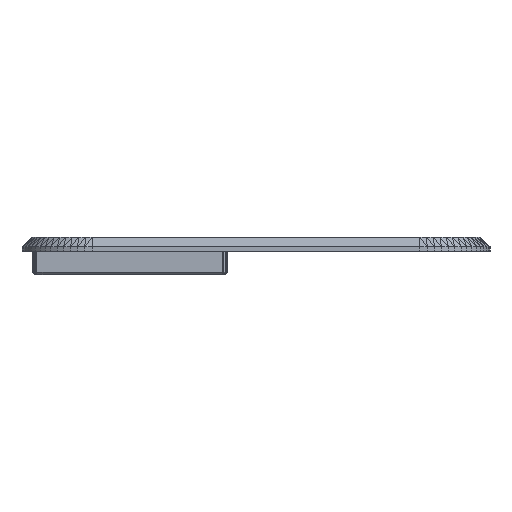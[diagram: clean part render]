
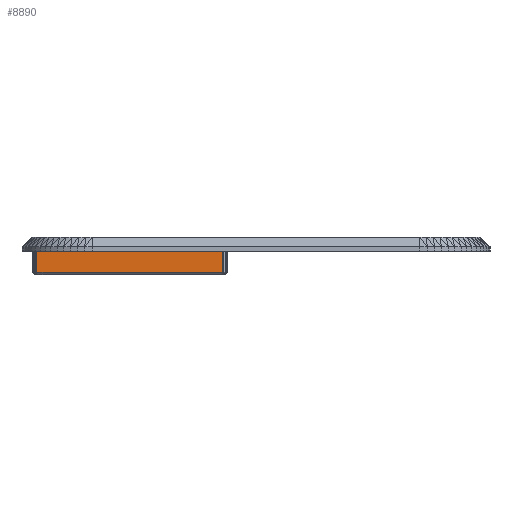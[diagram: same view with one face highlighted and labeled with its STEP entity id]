
A CAD part, front view. The second image highlights one B-rep face of the part: STEP entity #8890.
In plain terms, the highlighted planar face has unit normal (0, -1, 0).
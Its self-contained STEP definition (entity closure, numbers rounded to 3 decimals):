
#344=FACE_OUTER_BOUND('',#941,.T.);
#941=EDGE_LOOP('',(#6961,#6962,#6963,#6964));
#1481=LINE('',#12723,#2699);
#2029=LINE('',#13837,#3247);
#2031=LINE('',#13841,#3249);
#2032=LINE('',#13842,#3250);
#2699=VECTOR('',#10096,1.);
#3247=VECTOR('',#11196,1.);
#3249=VECTOR('',#11200,1.);
#3250=VECTOR('',#11201,1.);
#3909=VERTEX_POINT('',#12720);
#3910=VERTEX_POINT('',#12722);
#4200=VERTEX_POINT('',#13836);
#4201=VERTEX_POINT('',#13840);
#4582=EDGE_CURVE('',#3909,#3910,#1481,.T.);
#5137=EDGE_CURVE('',#4200,#3910,#2029,.T.);
#5139=EDGE_CURVE('',#4201,#4200,#2031,.T.);
#5140=EDGE_CURVE('',#4201,#3909,#2032,.T.);
#6961=ORIENTED_EDGE('',*,*,#5139,.T.);
#6962=ORIENTED_EDGE('',*,*,#5137,.T.);
#6963=ORIENTED_EDGE('',*,*,#4582,.F.);
#6964=ORIENTED_EDGE('',*,*,#5140,.F.);
#8307=PLANE('',#9503);
#8890=ADVANCED_FACE('',(#344),#8307,.T.);
#9503=AXIS2_PLACEMENT_3D('',#13839,#11198,#11199);
#10096=DIRECTION('',(1.,0.,0.));
#11196=DIRECTION('',(0.,0.,1.));
#11198=DIRECTION('center_axis',(0.,-1.,0.));
#11199=DIRECTION('ref_axis',(0.,0.,-1.));
#11200=DIRECTION('',(1.,0.,0.));
#11201=DIRECTION('',(0.,0.,1.));
#12720=CARTESIAN_POINT('',(-46.8,-31.55,-3.));
#12722=CARTESIAN_POINT('',(-7.1,-31.55,-3.));
#12723=CARTESIAN_POINT('',(-46.8,-31.55,-3.));
#13836=CARTESIAN_POINT('',(-7.1,-31.55,-7.5));
#13837=CARTESIAN_POINT('',(-7.1,-31.55,-7.5));
#13839=CARTESIAN_POINT('Origin',(-46.8,-31.55,-3.));
#13840=CARTESIAN_POINT('',(-46.8,-31.55,-7.5));
#13841=CARTESIAN_POINT('',(-46.8,-31.55,-7.5));
#13842=CARTESIAN_POINT('',(-46.8,-31.55,-7.5));
